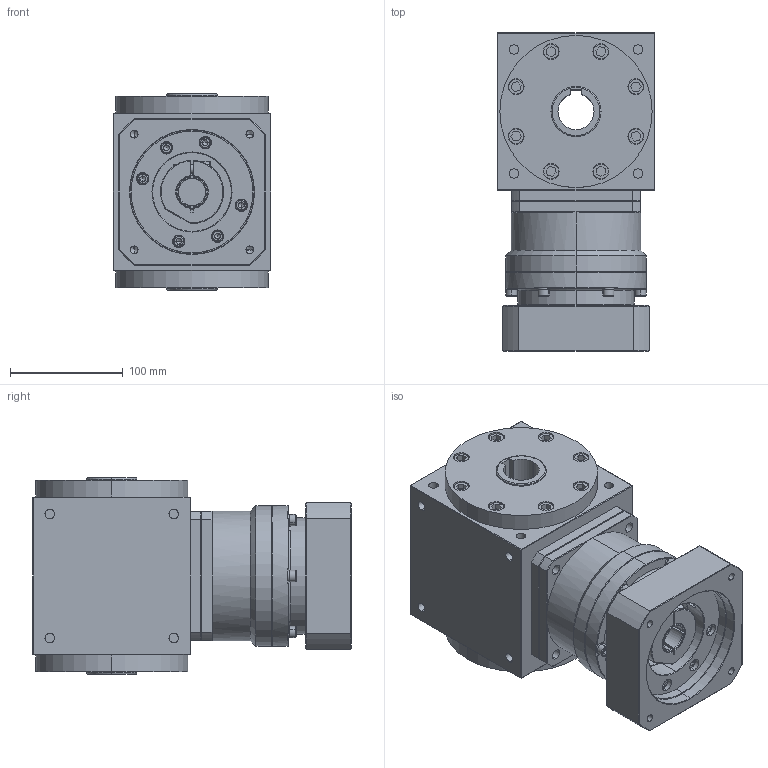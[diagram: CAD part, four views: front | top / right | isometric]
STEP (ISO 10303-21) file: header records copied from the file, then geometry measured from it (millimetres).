
FILE_DESCRIPTION (( 'STEP AP203' ), '1' );
FILE_NAME ('AT140-FH-L1 24-110-145-M8.STEP', '2024-12-24T09:25:35', ( '' ), ( '' ), 'SwSTEP 2.0', 'SolidWorks 2021', '' );
FILE_SCHEMA (( 'CONFIG_CONTROL_DESIGN' ));
Length unit declared in the file: millimetre
Products named in the file (3): AT140-FH-L1 24-110-145-M8; VRB-115-L1-S2-P1 24-110-145-M8; AT140-FH_1
Assembly tree (2 placements, depth 2):
  AT140-FH-L1 24-110-145-M8
    AT140-FH_1
    VRB-115-L1-S2-P1 24-110-145-M8
Bounding box: 140 x 282.5 x 174 mm (x, y, z)
Volume: 4485176.5 mm3; surface area: 358873.6 mm2
Topology: 32 solids, 32 shells, 1176 faces, 2818 edges, 1757 vertices
Faces by surface type: plane 577, cylinder 415, cone 152, torus 32
Entity records: 34479 total; most frequent: CARTESIAN_POINT 6801, DIRECTION 5944, ORIENTED_EDGE 5536, EDGE_CURVE 2768, AXIS2_PLACEMENT_3D 2264, VERTEX_POINT 1755, LINE 1416, VECTOR 1416
